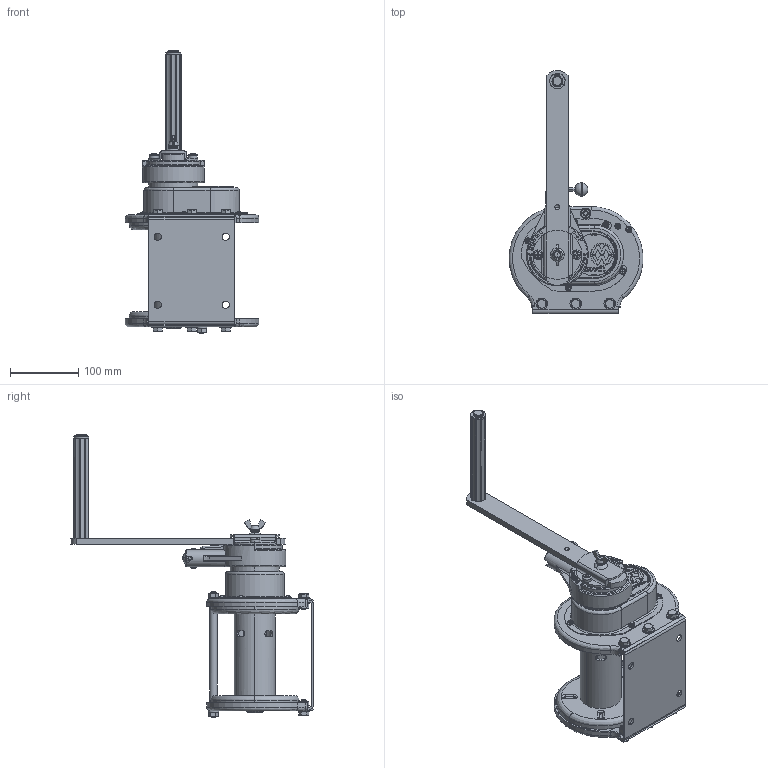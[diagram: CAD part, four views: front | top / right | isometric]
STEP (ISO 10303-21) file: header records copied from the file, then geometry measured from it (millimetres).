
FILE_DESCRIPTION( (''), '2;1');
FILE_NAME ('RST-1-SI.stp','2024-01-10T11:18:49',(''),(''),'spGate 19.8.2 (****-****-****-****)','','');
FILE_SCHEMA (('AUTOMOTIVE_DESIGN'));
Length unit declared in the file: millimetre
Products named in the file (3): Assembly; RST-1-SI-prt0; RST-1-SI-prt1
Assembly tree (2 placements, depth 2):
  Assembly
    RST-1-SI-prt0
    RST-1-SI-prt1
Bounding box: 196.82 x 356.93 x 416.7 mm (x, y, z)
Volume: 1201480.8 mm3; surface area: 449098.5 mm2
Topology: 2 solids, 2 shells, 2492 faces, 6426 edges, 4065 vertices
Faces by surface type: plane 1250, cylinder 781, bspline 356, sphere 105
Entity records: 133247 total; most frequent: CARTESIAN_POINT 23254, ORIENTED_EDGE 12722, DIRECTION 12061, COLOUR_RGB 8855, PRESENTATION_STYLE_ASSIGNMENT 8855, STYLED_ITEM 8855, EDGE_CURVE 6361, DRAUGHTING_PRE_DEFINED_CURVE_FONT 6361
